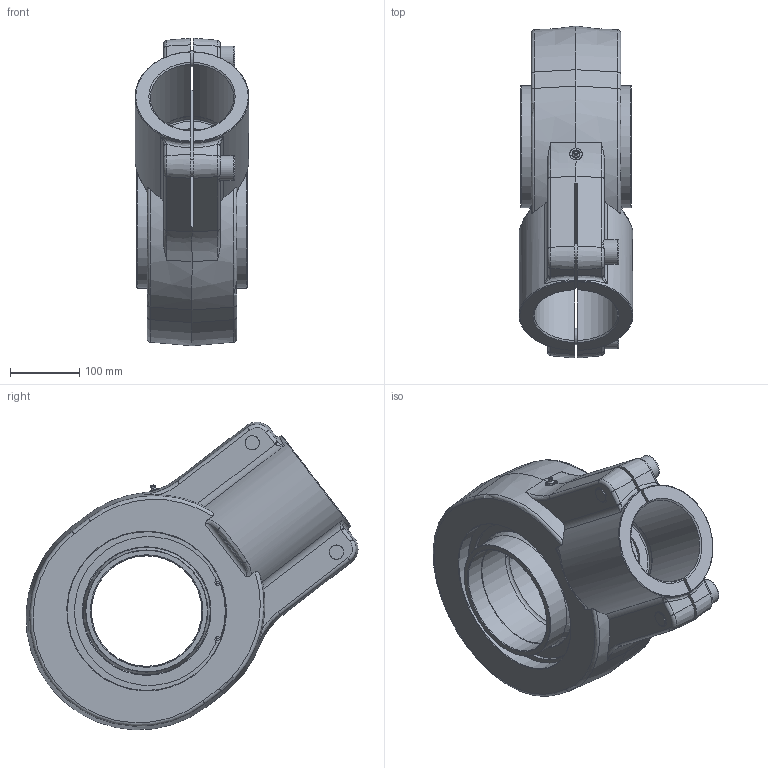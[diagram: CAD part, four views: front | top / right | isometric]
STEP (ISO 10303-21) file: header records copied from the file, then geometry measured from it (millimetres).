
FILE_DESCRIPTION((''),'2;1');
FILE_NAME('H:\WSW\Hydraulikgelenkköpfe\Aktuelle GK Zeichnungen andere Formate\WAPR..CE\WAPR..CE .STP\K-WAPR160CE.stp','2007-12-21T10:43:53',('oliver.joswig'),(''),'Autodesk Inventor 2008','Autodesk Inventor 2008','');
FILE_SCHEMA(('AUTOMOTIVE_DESIGN { 1 0 10303 214 1 1 1 1 }'));
Length unit declared in the file: millimetre
Products named in the file (7): K-WAPR160CE; GEEW_ES_AR mit Nut [Benennung=AR_GEEW160ES][Kugel_dk=100mm][Breite=80mm][Radius_r1s=1mm][Aussendurchmessser=115mm]; GEEW_ES_IR mit Nut [Benennung=IR160LO][Breite=160 mm][Kugel=100 mm][Bund_D=88,5 mm][Freid_b=27,5 mm][Freid_D=80,53 mm][Bohr=80 mm][Fase=45 grd][R_rs=1 mm]; F-WAPR160CE; DIN 71412  A  (Feingewinde) AM10 x 1 keg kurz; DIN 472 230 x 5; DIN EN ISO 4762  (Regelgewinde) M24 x 80
Assembly tree (8 placements, depth 2):
  K-WAPR160CE
    GEEW_ES_AR mit Nut [Benennung=AR_GEEW160ES][Kugel_dk=100mm][Breite=80mm][Radius_r1s=1mm][Aussendurchmessser=115mm]
    GEEW_ES_IR mit Nut [Benennung=IR160LO][Breite=160 mm][Kugel=100 mm][Bund_D=88,5 mm][Freid_b=27,5 mm][Freid_D=80,53 mm][Bohr=80 mm][Fase=45 grd][R_rs=1 mm]
    F-WAPR160CE
    DIN 71412  A  (Feingewinde) AM10 x 1 keg kurz
    DIN 472 230 x 5  x2
    DIN EN ISO 4762  (Regelgewinde) M24 x 80  x2
Bounding box: 165 x 480.87 x 445.56 mm (x, y, z)
Volume: 10958780.8 mm3; surface area: 927590.4 mm2
Topology: 8 solids, 8 shells, 303 faces, 756 edges, 474 vertices
Faces by surface type: plane 113, cylinder 71, bspline 51, cone 42, torus 23, sphere 3
Full cylindrical faces by diameter (mm): 4 x4, 5 x1, 7.217 x2, 10 x1, 12.108 x2, 24 x2, 36 x2, 160 x2, 161.06 x2, 177 x2, 230 x5, 236 x2
Entity records: 12068 total; most frequent: CARTESIAN_POINT 5850, ORIENTED_EDGE 1236, DIRECTION 1176, EDGE_CURVE 618, AXIS2_PLACEMENT_3D 467, VERTEX_POINT 420, EDGE_LOOP 372, FACE_OUTER_BOUND 277
